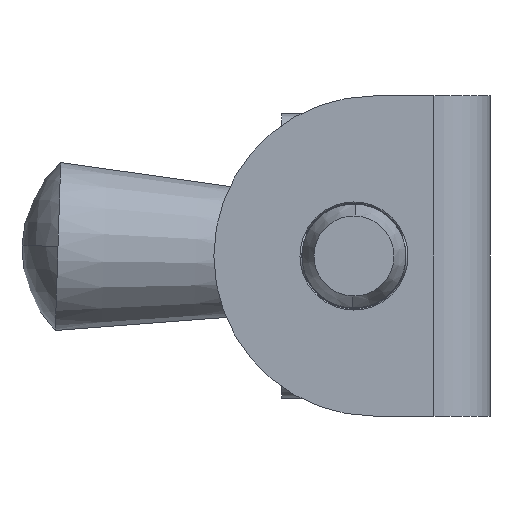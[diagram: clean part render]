
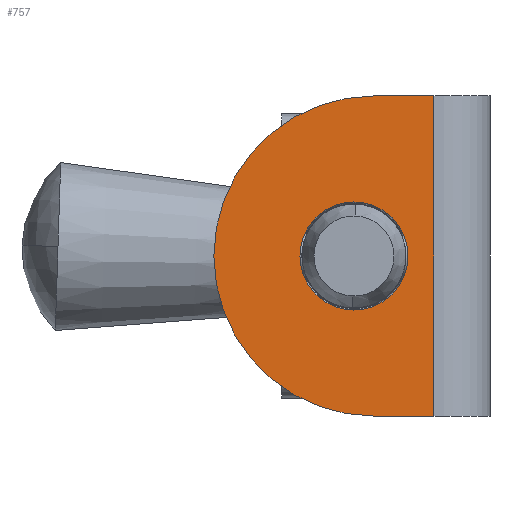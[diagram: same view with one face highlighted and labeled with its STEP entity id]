
A CAD part, left-side view. The second image highlights one B-rep face of the part: STEP entity #757.
In plain terms, the highlighted planar face has unit normal (-1, 0, 0).
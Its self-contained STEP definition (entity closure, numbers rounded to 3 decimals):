
#148 = VERTEX_POINT ( 'NONE', #8459 ) ;
#194 = AXIS2_PLACEMENT_3D ( 'NONE', #8763, #5804, #5074 ) ;
#310 = LINE ( 'NONE', #3329, #7572 ) ;
#757 = ADVANCED_FACE ( 'NONE', ( #5611, #1622 ), #2634, .F. ) ;
#762 = CARTESIAN_POINT ( 'NONE',  ( -37.5, 14.5, 20. ) ) ;
#995 = CARTESIAN_POINT ( 'NONE',  ( -37.5, 17., 0. ) ) ;
#1190 = VERTEX_POINT ( 'NONE', #6512 ) ;
#1341 = ORIENTED_EDGE ( 'NONE', *, *, #4315, .F. ) ;
#1418 = CARTESIAN_POINT ( 'NONE',  ( -37.5, 7., 20. ) ) ;
#1558 = EDGE_LOOP ( 'NONE', ( #1341, #4483, #6446, #7933 ) ) ;
#1622 = FACE_OUTER_BOUND ( 'NONE', #1558, .T. ) ;
#1749 = DIRECTION ( 'NONE',  ( 0., 0., -1. ) ) ;
#2093 = CIRCLE ( 'NONE', #8039, 6.75 ) ;
#2114 = ORIENTED_EDGE ( 'NONE', *, *, #5592, .T. ) ;
#2127 = EDGE_CURVE ( 'NONE', #8593, #7146, #8512, .T. ) ;
#2313 = EDGE_CURVE ( 'NONE', #148, #1190, #2093, .T. ) ;
#2491 = EDGE_LOOP ( 'NONE', ( #8909, #2114 ) ) ;
#2634 = PLANE ( 'NONE',  #194 ) ;
#2937 = DIRECTION ( 'NONE',  ( 0., 0., -1. ) ) ;
#3329 = CARTESIAN_POINT ( 'NONE',  ( -37.5, 7., -20. ) ) ;
#3362 = CARTESIAN_POINT ( 'NONE',  ( -37.5, 17., 0. ) ) ;
#3602 = AXIS2_PLACEMENT_3D ( 'NONE', #3362, #8584, #4116 ) ;
#3915 = CARTESIAN_POINT ( 'NONE',  ( -37.5, 14.5, 0. ) ) ;
#4116 = DIRECTION ( 'NONE',  ( 0., 0., -1. ) ) ;
#4315 = EDGE_CURVE ( 'NONE', #8593, #4490, #5591, .T. ) ;
#4483 = ORIENTED_EDGE ( 'NONE', *, *, #2127, .T. ) ;
#4490 = VERTEX_POINT ( 'NONE', #5891 ) ;
#4531 = AXIS2_PLACEMENT_3D ( 'NONE', #3915, #9130, #4671 ) ;
#4671 = DIRECTION ( 'NONE',  ( 0., 0., -1. ) ) ;
#4891 = VECTOR ( 'NONE', #8894, 1000. ) ;
#5074 = DIRECTION ( 'NONE',  ( 0., 0., -1. ) ) ;
#5575 = EDGE_CURVE ( 'NONE', #7146, #5912, #310, .T. ) ;
#5576 = LINE ( 'NONE', #1418, #6638 ) ;
#5591 = LINE ( 'NONE', #8149, #4891 ) ;
#5592 = EDGE_CURVE ( 'NONE', #1190, #148, #7343, .T. ) ;
#5611 = FACE_BOUND ( 'NONE', #2491, .T. ) ;
#5804 = DIRECTION ( 'NONE',  ( 1., 0., 0. ) ) ;
#5891 = CARTESIAN_POINT ( 'NONE',  ( -37.5, 7., 20. ) ) ;
#5912 = VERTEX_POINT ( 'NONE', #9460 ) ;
#6240 = DIRECTION ( 'NONE',  ( 1., 0., 0. ) ) ;
#6446 = ORIENTED_EDGE ( 'NONE', *, *, #5575, .T. ) ;
#6462 = CARTESIAN_POINT ( 'NONE',  ( -37.5, 14.5, -20. ) ) ;
#6512 = CARTESIAN_POINT ( 'NONE',  ( -37.5, 17., 6.75 ) ) ;
#6638 = VECTOR ( 'NONE', #2937, 1000. ) ;
#7057 = DIRECTION ( 'NONE',  ( 0., -1., 0. ) ) ;
#7146 = VERTEX_POINT ( 'NONE', #6462 ) ;
#7343 = CIRCLE ( 'NONE', #3602, 6.75 ) ;
#7572 = VECTOR ( 'NONE', #7057, 1000. ) ;
#7633 = EDGE_CURVE ( 'NONE', #4490, #5912, #5576, .T. ) ;
#7933 = ORIENTED_EDGE ( 'NONE', *, *, #7633, .F. ) ;
#8039 = AXIS2_PLACEMENT_3D ( 'NONE', #995, #6240, #1749 ) ;
#8149 = CARTESIAN_POINT ( 'NONE',  ( -37.5, 7., 20. ) ) ;
#8459 = CARTESIAN_POINT ( 'NONE',  ( -37.5, 17., -6.75 ) ) ;
#8512 = CIRCLE ( 'NONE', #4531, 20. ) ;
#8584 = DIRECTION ( 'NONE',  ( 1., 0., 0. ) ) ;
#8593 = VERTEX_POINT ( 'NONE', #762 ) ;
#8763 = CARTESIAN_POINT ( 'NONE',  ( -37.5, 7., 20. ) ) ;
#8894 = DIRECTION ( 'NONE',  ( 0., -1., 0. ) ) ;
#8909 = ORIENTED_EDGE ( 'NONE', *, *, #2313, .T. ) ;
#9130 = DIRECTION ( 'NONE',  ( -1., 0., 0. ) ) ;
#9460 = CARTESIAN_POINT ( 'NONE',  ( -37.5, 7., -20. ) ) ;
